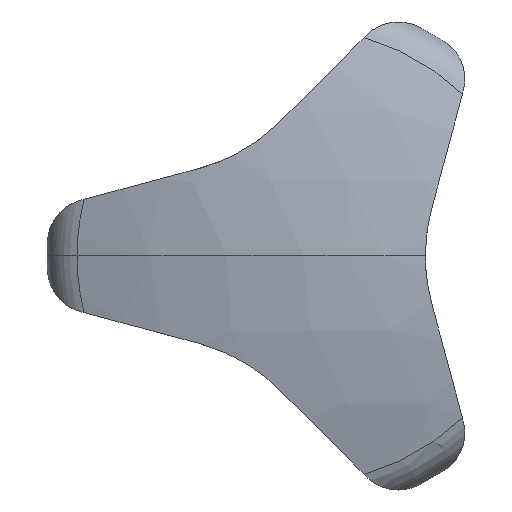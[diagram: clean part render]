
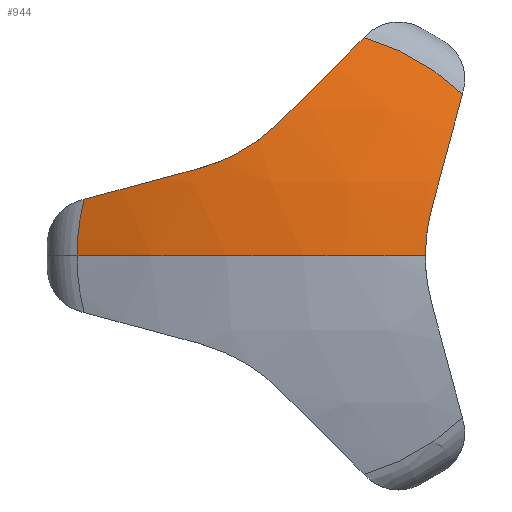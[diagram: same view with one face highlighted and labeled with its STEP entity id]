
A CAD part, left-side view. The second image highlights one B-rep face of the part: STEP entity #944.
In plain terms, the highlighted spherical face has radius 53 mm.
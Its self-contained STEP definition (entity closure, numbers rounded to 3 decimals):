
#6 = EDGE_CURVE ( 'NONE', #203, #499, #965, .T. ) ;
#15 = VERTEX_POINT ( 'NONE', #785 ) ;
#69 = CARTESIAN_POINT ( 'NONE',  ( -25.123, -9.541, 1.227 ) ) ;
#93 = CARTESIAN_POINT ( 'NONE',  ( -22.969, 17.667, 0. ) ) ;
#125 = VERTEX_POINT ( 'NONE', #369 ) ;
#131 = DIRECTION ( 'NONE',  ( 0., -0.966, 0.259 ) ) ;
#139 = CARTESIAN_POINT ( 'NONE',  ( 27., 2.252, 8.403 ) ) ;
#146 = ORIENTED_EDGE ( 'NONE', *, *, #900, .T. ) ;
#171 = CARTESIAN_POINT ( 'NONE',  ( -24.926, 1.851, 10.452 ) ) ;
#189 = CARTESIAN_POINT ( 'NONE',  ( -24.926, 1.851, 10.452 ) ) ;
#203 = VERTEX_POINT ( 'NONE', #1467 ) ;
#220 = CARTESIAN_POINT ( 'NONE',  ( 27., -8.403, -2.252 ) ) ;
#287 = CARTESIAN_POINT ( 'NONE',  ( -25.142, 5.27, 7.926 ) ) ;
#294 = ORIENTED_EDGE ( 'NONE', *, *, #998, .T. ) ;
#295 = CARTESIAN_POINT ( 'NONE',  ( -24.926, -9.977, 3.623 ) ) ;
#309 = CARTESIAN_POINT ( 'NONE',  ( -25.124, 5.826, 7.652 ) ) ;
#322 = CARTESIAN_POINT ( 'NONE',  ( 27., 6.151, 6.151 ) ) ;
#324 = DIRECTION ( 'NONE',  ( 1., 0., 0. ) ) ;
#337 = ORIENTED_EDGE ( 'NONE', *, *, #352, .T. ) ;
#348 = AXIS2_PLACEMENT_3D ( 'NONE', #1472, #866, #387 ) ;
#350 = DIRECTION ( 'NONE',  ( 0., -1., 0. ) ) ;
#352 = EDGE_CURVE ( 'NONE', #753, #893, #1533, .T. ) ;
#369 = CARTESIAN_POINT ( 'NONE',  ( -26., 0., 0. ) ) ;
#381 = CIRCLE ( 'NONE', #1188, 52.281 ) ;
#383 = CIRCLE ( 'NONE', #437, 52.281 ) ;
#387 = DIRECTION ( 'NONE',  ( -1., 0., 0. ) ) ;
#421 = CARTESIAN_POINT ( 'NONE',  ( -24.998, 7.535, 6.987 ) ) ;
#430 = DIRECTION ( 'NONE',  ( 0., 1., 0. ) ) ;
#437 = AXIS2_PLACEMENT_3D ( 'NONE', #322, #830, #1067 ) ;
#451 = CARTESIAN_POINT ( 'NONE',  ( -22.969, -12.383, 12.601 ) ) ;
#472 = DIRECTION ( 'NONE',  ( 0., 0.966, 0.259 ) ) ;
#499 = VERTEX_POINT ( 'NONE', #1305 ) ;
#540 = AXIS2_PLACEMENT_3D ( 'NONE', #220, #472, #941 ) ;
#546 = CARTESIAN_POINT ( 'NONE',  ( -25.07, 2.717, 9.586 ) ) ;
#558 = CARTESIAN_POINT ( 'NONE',  ( -24.926, 8.127, 6.829 ) ) ;
#564 = CARTESIAN_POINT ( 'NONE',  ( -24.926, 8.127, 6.829 ) ) ;
#567 = ORIENTED_EDGE ( 'NONE', *, *, #6, .T. ) ;
#594 = DIRECTION ( 'NONE',  ( 0., 1., 0. ) ) ;
#609 = CARTESIAN_POINT ( 'NONE',  ( 27., 0., 0. ) ) ;
#669 = CARTESIAN_POINT ( 'NONE',  ( -25.051, -9.7, 2.436 ) ) ;
#703 = EDGE_CURVE ( 'NONE', #125, #1499, #1033, .T. ) ;
#711 = AXIS2_PLACEMENT_3D ( 'NONE', #904, #324, #430 ) ;
#753 = VERTEX_POINT ( 'NONE', #171 ) ;
#764 = CIRCLE ( 'NONE', #885, 17.667 ) ;
#772 = ORIENTED_EDGE ( 'NONE', *, *, #1157, .T. ) ;
#785 = CARTESIAN_POINT ( 'NONE',  ( -22.969, -4.721, 17.024 ) ) ;
#786 = CARTESIAN_POINT ( 'NONE',  ( -25.052, 6.956, 7.184 ) ) ;
#789 = AXIS2_PLACEMENT_3D ( 'NONE', #1062, #1545, #594 ) ;
#830 = DIRECTION ( 'NONE',  ( 0., -0.707, -0.707 ) ) ;
#836 = VERTEX_POINT ( 'NONE', #451 ) ;
#866 = DIRECTION ( 'NONE',  ( 0., 0., -1. ) ) ;
#868 = EDGE_CURVE ( 'NONE', #1499, #1522, #1367, .T. ) ;
#885 = AXIS2_PLACEMENT_3D ( 'NONE', #1095, #996, #1115 ) ;
#893 = VERTEX_POINT ( 'NONE', #564 ) ;
#900 = EDGE_CURVE ( 'NONE', #499, #836, #1391, .T. ) ;
#904 = CARTESIAN_POINT ( 'NONE',  ( -22.969, 0., 0. ) ) ;
#941 = DIRECTION ( 'NONE',  ( 0., 0.259, -0.966 ) ) ;
#944 = ADVANCED_FACE ( 'NONE', ( #1552 ), #1189, .T. ) ;
#965 = B_SPLINE_CURVE_WITH_KNOTS ( 'NONE', 3,
 ( #1027, #1141, #69, #669, #1377, #295 ),
 .UNSPECIFIED., .F., .F.,
 ( 4, 2, 4 ),
 ( 0.004, 0.005, 0.007 ),
 .UNSPECIFIED. ) ;
#978 = EDGE_LOOP ( 'NONE', ( #1528, #294, #567, #146, #1312, #1004, #337, #772, #1511 ) ) ;
#996 = DIRECTION ( 'NONE',  ( 1., 0., 0. ) ) ;
#998 = EDGE_CURVE ( 'NONE', #125, #203, #1161, .T. ) ;
#1004 = ORIENTED_EDGE ( 'NONE', *, *, #1462, .T. ) ;
#1027 = CARTESIAN_POINT ( 'NONE',  ( -25.142, -9.5, 0. ) ) ;
#1033 = CIRCLE ( 'NONE', #348, 53. ) ;
#1062 = CARTESIAN_POINT ( 'NONE',  ( 27., 0., 0. ) ) ;
#1067 = DIRECTION ( 'NONE',  ( 0., -0.707, 0.707 ) ) ;
#1080 = EDGE_CURVE ( 'NONE', #15, #836, #764, .T. ) ;
#1095 = CARTESIAN_POINT ( 'NONE',  ( -22.969, 0., 0. ) ) ;
#1115 = DIRECTION ( 'NONE',  ( 0., 1., 0. ) ) ;
#1126 = CARTESIAN_POINT ( 'NONE',  ( -25.141, 3.68, 8.846 ) ) ;
#1141 = CARTESIAN_POINT ( 'NONE',  ( -25.142, -9.5, 0.61 ) ) ;
#1157 = EDGE_CURVE ( 'NONE', #893, #1522, #381, .T. ) ;
#1161 = CIRCLE ( 'NONE', #1496, 53. ) ;
#1188 = AXIS2_PLACEMENT_3D ( 'NONE', #139, #1218, #131 ) ;
#1189 = SPHERICAL_SURFACE ( 'NONE', #789, 53. ) ;
#1218 = DIRECTION ( 'NONE',  ( 0., -0.259, -0.966 ) ) ;
#1305 = CARTESIAN_POINT ( 'NONE',  ( -24.926, -9.977, 3.623 ) ) ;
#1312 = ORIENTED_EDGE ( 'NONE', *, *, #1080, .F. ) ;
#1367 = CIRCLE ( 'NONE', #711, 17.667 ) ;
#1377 = CARTESIAN_POINT ( 'NONE',  ( -24.998, -9.819, 3.033 ) ) ;
#1391 = CIRCLE ( 'NONE', #540, 52.281 ) ;
#1411 = DIRECTION ( 'NONE',  ( 0., 0., 1. ) ) ;
#1462 = EDGE_CURVE ( 'NONE', #15, #753, #383, .T. ) ;
#1467 = CARTESIAN_POINT ( 'NONE',  ( -25.142, -9.5, 0. ) ) ;
#1472 = CARTESIAN_POINT ( 'NONE',  ( 27., 0., 0. ) ) ;
#1496 = AXIS2_PLACEMENT_3D ( 'NONE', #609, #1411, #350 ) ;
#1499 = VERTEX_POINT ( 'NONE', #93 ) ;
#1511 = ORIENTED_EDGE ( 'NONE', *, *, #868, .F. ) ;
#1522 = VERTEX_POINT ( 'NONE', #1536 ) ;
#1528 = ORIENTED_EDGE ( 'NONE', *, *, #703, .F. ) ;
#1533 = B_SPLINE_CURVE_WITH_KNOTS ( 'NONE', 3,
 ( #189, #546, #1126, #287, #309, #786, #421, #558 ),
 .UNSPECIFIED., .F., .F.,
 ( 4, 2, 2, 4 ),
 ( 0., 0.004, 0.005, 0.007 ),
 .UNSPECIFIED. ) ;
#1536 = CARTESIAN_POINT ( 'NONE',  ( -22.969, 17.104, 4.423 ) ) ;
#1545 = DIRECTION ( 'NONE',  ( 0., 0., 1. ) ) ;
#1552 = FACE_OUTER_BOUND ( 'NONE', #978, .T. ) ;
